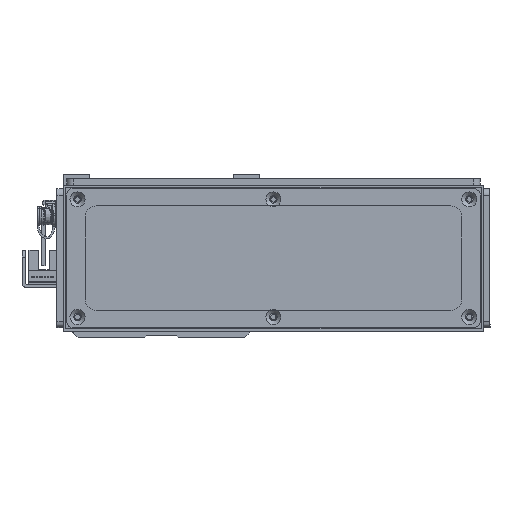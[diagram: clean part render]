
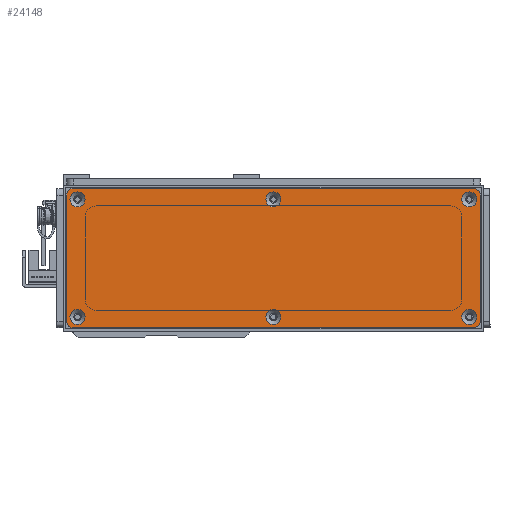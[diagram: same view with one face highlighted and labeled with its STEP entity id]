
A CAD part, left-side view. The second image highlights one B-rep face of the part: STEP entity #24148.
In plain terms, the highlighted planar face has unit normal (-1, 0, 0) as drawn and (0, 0, 1) by its records, which use the part's own axes.
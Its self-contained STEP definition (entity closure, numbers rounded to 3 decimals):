
#1127=FACE_BOUND('',#4493,.T.);
#1128=FACE_BOUND('',#4494,.T.);
#1129=FACE_BOUND('',#4495,.T.);
#1130=FACE_BOUND('',#4496,.T.);
#1131=FACE_BOUND('',#4497,.T.);
#1132=FACE_BOUND('',#4498,.T.);
#1648=PLANE('',#26915);
#2808=FACE_OUTER_BOUND('',#4492,.T.);
#4492=EDGE_LOOP('',(#20924,#20925,#20926,#20927,#20928,#20929,#20930,#20931));
#4493=EDGE_LOOP('',(#20932));
#4494=EDGE_LOOP('',(#20933));
#4495=EDGE_LOOP('',(#20934));
#4496=EDGE_LOOP('',(#20935));
#4497=EDGE_LOOP('',(#20936));
#4498=EDGE_LOOP('',(#20937));
#6377=LINE('',#40922,#8342);
#6380=LINE('',#40930,#8345);
#6383=LINE('',#40938,#8348);
#6386=LINE('',#40945,#8351);
#8342=VECTOR('',#33074,10.);
#8345=VECTOR('',#33083,10.);
#8348=VECTOR('',#33092,10.);
#8351=VECTOR('',#33101,10.);
#9825=CIRCLE('',#26869,3.45);
#9828=CIRCLE('',#26874,3.45);
#9831=CIRCLE('',#26879,3.45);
#9834=CIRCLE('',#26884,3.45);
#9837=CIRCLE('',#26889,3.45);
#9840=CIRCLE('',#26894,3.45);
#9847=CIRCLE('',#26904,3.);
#9848=CIRCLE('',#26907,3.);
#9849=CIRCLE('',#26910,3.);
#9850=CIRCLE('',#26913,3.);
#11796=VERTEX_POINT('',#40838);
#11799=VERTEX_POINT('',#40848);
#11802=VERTEX_POINT('',#40858);
#11805=VERTEX_POINT('',#40868);
#11808=VERTEX_POINT('',#40878);
#11811=VERTEX_POINT('',#40888);
#11822=VERTEX_POINT('',#40915);
#11823=VERTEX_POINT('',#40917);
#11824=VERTEX_POINT('',#40921);
#11825=VERTEX_POINT('',#40925);
#11826=VERTEX_POINT('',#40929);
#11827=VERTEX_POINT('',#40933);
#11828=VERTEX_POINT('',#40937);
#11829=VERTEX_POINT('',#40941);
#14901=EDGE_CURVE('',#11796,#11796,#9825,.T.);
#14906=EDGE_CURVE('',#11799,#11799,#9828,.T.);
#14911=EDGE_CURVE('',#11802,#11802,#9831,.T.);
#14916=EDGE_CURVE('',#11805,#11805,#9834,.T.);
#14921=EDGE_CURVE('',#11808,#11808,#9837,.T.);
#14926=EDGE_CURVE('',#11811,#11811,#9840,.T.);
#14940=EDGE_CURVE('',#11823,#11822,#9847,.T.);
#14942=EDGE_CURVE('',#11824,#11823,#6377,.T.);
#14944=EDGE_CURVE('',#11825,#11824,#9848,.T.);
#14946=EDGE_CURVE('',#11826,#11825,#6380,.T.);
#14948=EDGE_CURVE('',#11827,#11826,#9849,.T.);
#14950=EDGE_CURVE('',#11828,#11827,#6383,.T.);
#14952=EDGE_CURVE('',#11829,#11828,#9850,.T.);
#14954=EDGE_CURVE('',#11822,#11829,#6386,.T.);
#20924=ORIENTED_EDGE('',*,*,#14954,.T.);
#20925=ORIENTED_EDGE('',*,*,#14952,.T.);
#20926=ORIENTED_EDGE('',*,*,#14950,.T.);
#20927=ORIENTED_EDGE('',*,*,#14948,.T.);
#20928=ORIENTED_EDGE('',*,*,#14946,.T.);
#20929=ORIENTED_EDGE('',*,*,#14944,.T.);
#20930=ORIENTED_EDGE('',*,*,#14942,.T.);
#20931=ORIENTED_EDGE('',*,*,#14940,.T.);
#20932=ORIENTED_EDGE('',*,*,#14901,.T.);
#20933=ORIENTED_EDGE('',*,*,#14906,.T.);
#20934=ORIENTED_EDGE('',*,*,#14911,.T.);
#20935=ORIENTED_EDGE('',*,*,#14916,.T.);
#20936=ORIENTED_EDGE('',*,*,#14921,.T.);
#20937=ORIENTED_EDGE('',*,*,#14926,.T.);
#24148=ADVANCED_FACE('',(#2808,#1127,#1128,#1129,#1130,#1131,#1132),#1648,
 .T.);
#26869=AXIS2_PLACEMENT_3D('',#40839,#32982,#32983);
#26874=AXIS2_PLACEMENT_3D('',#40849,#32994,#32995);
#26879=AXIS2_PLACEMENT_3D('',#40859,#33006,#33007);
#26884=AXIS2_PLACEMENT_3D('',#40869,#33018,#33019);
#26889=AXIS2_PLACEMENT_3D('',#40879,#33030,#33031);
#26894=AXIS2_PLACEMENT_3D('',#40889,#33042,#33043);
#26904=AXIS2_PLACEMENT_3D('',#40918,#33069,#33070);
#26907=AXIS2_PLACEMENT_3D('',#40926,#33078,#33079);
#26910=AXIS2_PLACEMENT_3D('',#40934,#33087,#33088);
#26913=AXIS2_PLACEMENT_3D('',#40942,#33096,#33097);
#26915=AXIS2_PLACEMENT_3D('',#40946,#33102,#33103);
#32982=DIRECTION('center_axis',(0.,0.,-1.));
#32983=DIRECTION('ref_axis',(1.,0.,0.));
#32994=DIRECTION('center_axis',(0.,0.,-1.));
#32995=DIRECTION('ref_axis',(1.,0.,0.));
#33006=DIRECTION('center_axis',(0.,0.,-1.));
#33007=DIRECTION('ref_axis',(1.,0.,0.));
#33018=DIRECTION('center_axis',(0.,0.,-1.));
#33019=DIRECTION('ref_axis',(1.,0.,0.));
#33030=DIRECTION('center_axis',(0.,0.,-1.));
#33031=DIRECTION('ref_axis',(1.,0.,0.));
#33042=DIRECTION('center_axis',(0.,0.,-1.));
#33043=DIRECTION('ref_axis',(1.,0.,0.));
#33069=DIRECTION('center_axis',(0.,0.,1.));
#33070=DIRECTION('ref_axis',(0.,1.,0.));
#33074=DIRECTION('',(-1.,0.,0.));
#33078=DIRECTION('center_axis',(0.,0.,1.));
#33079=DIRECTION('ref_axis',(1.,0.,0.));
#33083=DIRECTION('',(0.,1.,0.));
#33087=DIRECTION('center_axis',(0.,0.,1.));
#33088=DIRECTION('ref_axis',(0.,-1.,0.));
#33092=DIRECTION('',(1.,0.,0.));
#33096=DIRECTION('center_axis',(0.,0.,1.));
#33097=DIRECTION('ref_axis',(-1.,0.,0.));
#33101=DIRECTION('',(0.,-1.,0.));
#33102=DIRECTION('center_axis',(0.,0.,1.));
#33103=DIRECTION('ref_axis',(1.,0.,0.));
#40838=CARTESIAN_POINT('',(-3.45,27.,1.5));
#40839=CARTESIAN_POINT('Origin',(0.,27.,1.5));
#40848=CARTESIAN_POINT('',(86.55,-27.,1.5));
#40849=CARTESIAN_POINT('Origin',(90.,-27.,1.5));
#40858=CARTESIAN_POINT('',(-93.45,27.,1.5));
#40859=CARTESIAN_POINT('Origin',(-90.,27.,1.5));
#40868=CARTESIAN_POINT('',(86.55,27.,1.5));
#40869=CARTESIAN_POINT('Origin',(90.,27.,1.5));
#40878=CARTESIAN_POINT('',(-93.45,-27.,1.5));
#40879=CARTESIAN_POINT('Origin',(-90.,-27.,1.5));
#40888=CARTESIAN_POINT('',(-3.45,-27.,1.5));
#40889=CARTESIAN_POINT('Origin',(0.,-27.,1.5));
#40915=CARTESIAN_POINT('',(-95.,29.,1.5));
#40917=CARTESIAN_POINT('',(-92.,32.,1.5));
#40918=CARTESIAN_POINT('Origin',(-92.,29.,1.5));
#40921=CARTESIAN_POINT('',(92.,32.,1.5));
#40922=CARTESIAN_POINT('',(92.,32.,1.5));
#40925=CARTESIAN_POINT('',(95.,29.,1.5));
#40926=CARTESIAN_POINT('Origin',(92.,29.,1.5));
#40929=CARTESIAN_POINT('',(95.,-29.,1.5));
#40930=CARTESIAN_POINT('',(95.,-29.,1.5));
#40933=CARTESIAN_POINT('',(92.,-32.,1.5));
#40934=CARTESIAN_POINT('Origin',(92.,-29.,1.5));
#40937=CARTESIAN_POINT('',(-92.,-32.,1.5));
#40938=CARTESIAN_POINT('',(-92.,-32.,1.5));
#40941=CARTESIAN_POINT('',(-95.,-29.,1.5));
#40942=CARTESIAN_POINT('Origin',(-92.,-29.,1.5));
#40945=CARTESIAN_POINT('',(-95.,29.,1.5));
#40946=CARTESIAN_POINT('Origin',(0.,0.,
1.5));
